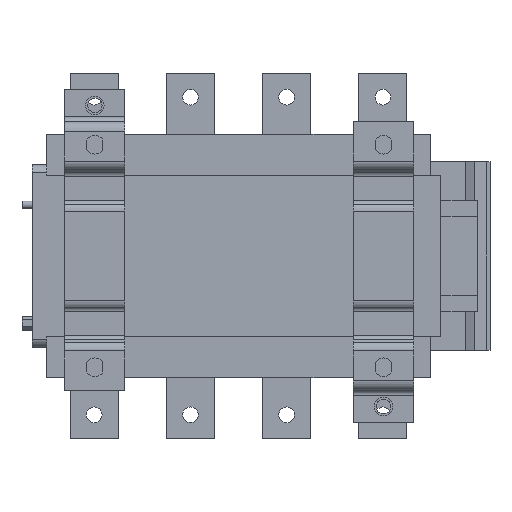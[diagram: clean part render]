
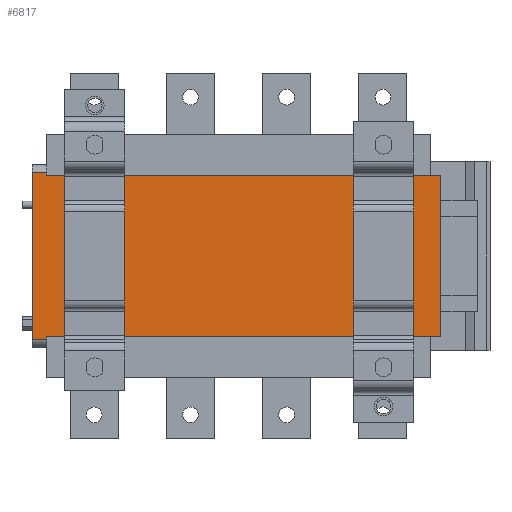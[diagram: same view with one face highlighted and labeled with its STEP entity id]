
A CAD part, front view. The second image highlights one B-rep face of the part: STEP entity #6817.
In plain terms, the highlighted planar face has unit normal (0, -1, 0) as drawn and (0, 1, 0) by its records, which use the part's own axes.
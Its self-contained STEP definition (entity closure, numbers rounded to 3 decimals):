
#1164=DIRECTION('',(0.,0.,1.));
#1165=VECTOR('',#1164,138.2);
#1166=CARTESIAN_POINT('',(-171.,240.5,-69.1));
#1167=LINE('',#1166,#1165);
#1315=DIRECTION('',(0.,0.,-1.));
#1316=VECTOR('',#1315,134.4);
#1317=CARTESIAN_POINT('',(168.5,240.5,67.2));
#1318=LINE('',#1317,#1316);
#1367=DIRECTION('',(1.,0.,0.));
#1368=VECTOR('',#1367,327.75);
#1369=CARTESIAN_POINT('',(-159.25,240.5,67.2));
#1370=LINE('',#1369,#1368);
#1371=DIRECTION('',(0.,0.,1.));
#1372=VECTOR('',#1371,1.9);
#1373=CARTESIAN_POINT('',(-159.25,240.5,67.2));
#1374=LINE('',#1373,#1372);
#1375=DIRECTION('',(1.,0.,0.));
#1376=VECTOR('',#1375,11.75);
#1377=CARTESIAN_POINT('',(-171.,240.5,-69.1));
#1378=LINE('',#1377,#1376);
#1379=DIRECTION('',(0.,0.,1.));
#1380=VECTOR('',#1379,1.9);
#1381=CARTESIAN_POINT('',(-159.25,240.5,-69.1));
#1382=LINE('',#1381,#1380);
#1383=DIRECTION('',(1.,0.,0.));
#1384=VECTOR('',#1383,327.75);
#1385=CARTESIAN_POINT('',(-159.25,240.5,-67.2));
#1386=LINE('',#1385,#1384);
#1391=DIRECTION('',(1.,0.,0.));
#1392=VECTOR('',#1391,11.75);
#1393=CARTESIAN_POINT('',(-171.,240.5,69.1));
#1394=LINE('',#1393,#1392);
#4461=CARTESIAN_POINT('',(168.5,240.5,67.2));
#4462=VERTEX_POINT('',#4461);
#4463=CARTESIAN_POINT('',(168.5,240.5,-67.2));
#4464=VERTEX_POINT('',#4463);
#4508=CARTESIAN_POINT('',(-159.25,240.5,-67.2));
#4509=VERTEX_POINT('',#4508);
#4510=CARTESIAN_POINT('',(-159.25,240.5,-69.1));
#4511=VERTEX_POINT('',#4510);
#4532=CARTESIAN_POINT('',(-159.25,240.5,69.1));
#4533=VERTEX_POINT('',#4532);
#4534=CARTESIAN_POINT('',(-159.25,240.5,67.2));
#4535=VERTEX_POINT('',#4534);
#4544=CARTESIAN_POINT('',(-171.,240.5,69.1));
#4545=VERTEX_POINT('',#4544);
#4546=CARTESIAN_POINT('',(-171.,240.5,-69.1));
#4547=VERTEX_POINT('',#4546);
#6799=CARTESIAN_POINT('',(168.5,240.5,-67.2));
#6800=DIRECTION('',(0.,1.,0.));
#6801=DIRECTION('',(0.,0.,1.));
#6802=AXIS2_PLACEMENT_3D('',#6799,#6800,#6801);
#6803=PLANE('',#6802);
#6804=ORIENTED_EDGE('',*,*,#6792,.F.);
#6805=ORIENTED_EDGE('',*,*,#6452,.T.);
#6807=ORIENTED_EDGE('',*,*,#6806,.F.);
#6808=ORIENTED_EDGE('',*,*,#6507,.F.);
#6810=ORIENTED_EDGE('',*,*,#6809,.T.);
#6811=ORIENTED_EDGE('',*,*,#6543,.T.);
#6813=ORIENTED_EDGE('',*,*,#6812,.T.);
#6814=ORIENTED_EDGE('',*,*,#6699,.F.);
#6815=EDGE_LOOP('',(#6804,#6805,#6807,#6808,#6810,#6811,#6813,#6814));
#6816=FACE_OUTER_BOUND('',#6815,.F.);
#6817=ADVANCED_FACE('',(#6816),#6803,.T.);
#6452=EDGE_CURVE('',#4535,#4533,#1374,.T.);
#6507=EDGE_CURVE('',#4547,#4545,#1167,.T.);
#6543=EDGE_CURVE('',#4511,#4509,#1382,.T.);
#6699=EDGE_CURVE('',#4462,#4464,#1318,.T.);
#6792=EDGE_CURVE('',#4535,#4462,#1370,.T.);
#6806=EDGE_CURVE('',#4545,#4533,#1394,.T.);
#6809=EDGE_CURVE('',#4547,#4511,#1378,.T.);
#6812=EDGE_CURVE('',#4509,#4464,#1386,.T.);
